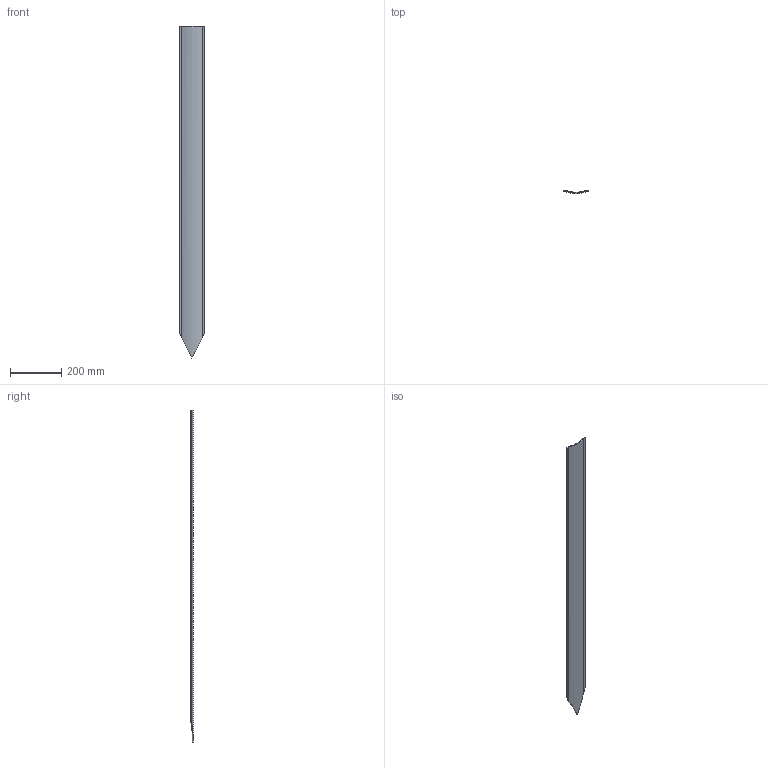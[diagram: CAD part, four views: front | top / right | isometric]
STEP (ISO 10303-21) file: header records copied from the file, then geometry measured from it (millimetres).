
FILE_DESCRIPTION(('FreeCAD Model'),'2;1');
FILE_NAME('model.step','2026-09-20T21:29:46Z',('MIR GROUP'),('MIR GROUP' ),'Open CASCADE STEP processor 7.8','Traffic Industries EN1','');
FILE_SCHEMA(('AUTOMOTIVE_DESIGN { 1 0 10303 214 1 1 1 1 }'));
Length unit declared in the file: millimetre
Products named in the file (1): TI-YKD-1300-WHITE-YY
Bounding box: 100 x 10 x 1300 mm (x, y, z)
Volume: 380997 mm3; surface area: 262184.6 mm2
Topology: 1 solids, 1 shells, 11 faces, 27 edges, 18 vertices
Faces by surface type: plane 9, cylinder 2
Entity records: 425 total; most frequent: DESCRIPTIVE_REPRESENTATION_ITEM 84, CARTESIAN_POINT 57, DIRECTION 57, ORIENTED_EDGE 54, EDGE_CURVE 27, LINE 21, VECTOR 21, AXIS2_PLACEMENT_3D 18
